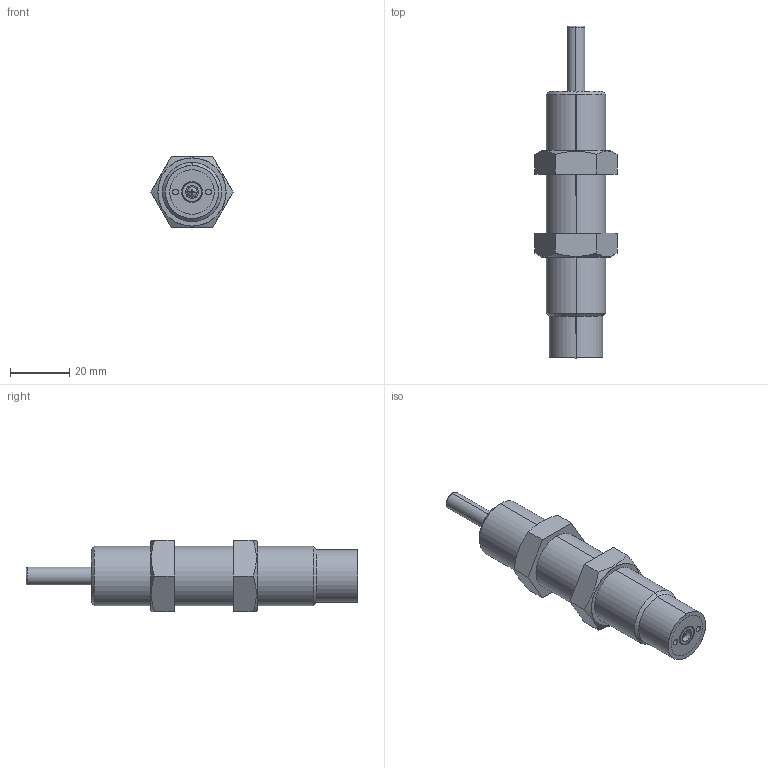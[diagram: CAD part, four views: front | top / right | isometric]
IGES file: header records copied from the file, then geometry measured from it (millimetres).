
Start section: SolidWorks IGES file using analytic representation for surfaces
Bounding box: 27.71 x 112 x 24 mm (x, y, z)
Surface area: 9543.3 mm2 (no closed solid volume)
Topology: 0 solids, 0 shells, 80 faces, 1238 edges, 1238 vertices
Faces by surface type: revolution 46, bspline 34
